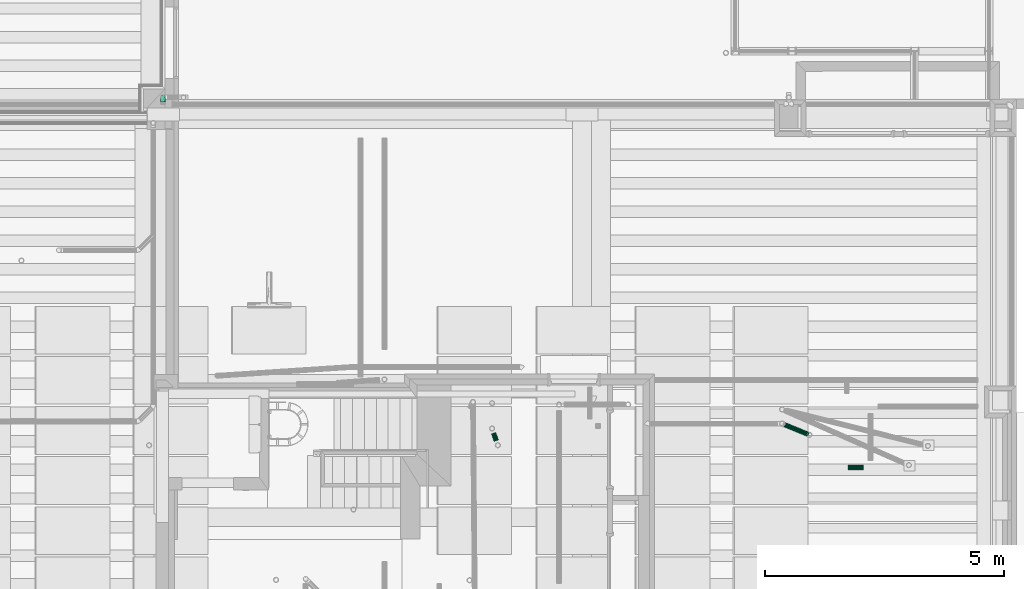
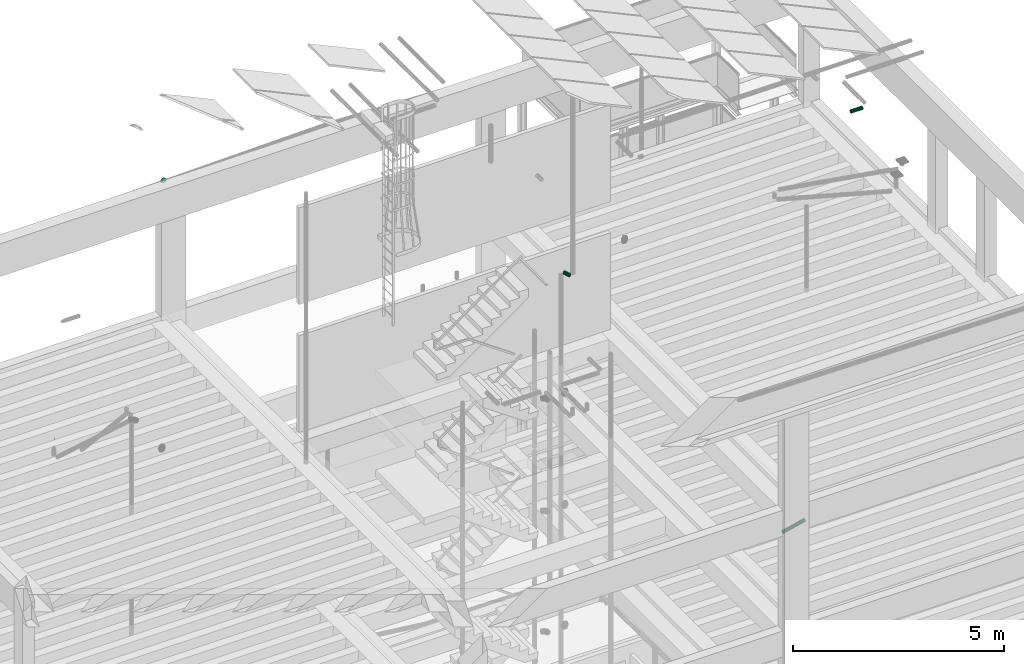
# One storey, part 92 of 106: 3 flow segments, 1 flow fitting.
"""IFC2X3 building model written with IfcOpenShell, lengths in metres."""

import ifcopenshell
import ifcopenshell.guid

model = None  # the IFC model being written
_history = None  # IfcOwnerHistory: only IFC2X3 demands one
_inside = {}  # id of a spatial element -> (the spatial element, [elements in it])
_under = {}  # id of a project, library or spatial element -> (it, [spatial elements below it])
_declared = {}  # id of a project -> (the project, [libraries it declares])
_typed = {}  # id of a type object -> (the type object, [elements of that type])
_made_of = {}  # id of a material, layer set ... -> (it, [elements and type objects made of it])


def new_model(schema):
    """Start an empty IFC model of exactly this schema.

    Asked for "IFC4X3", IfcOpenShell would pick the latest addendum, in which some entities
    have other attributes; the version numbers below select the first issue.
    IFC2X3 requires an IfcOwnerHistory on every rooted entity: one is made here for all.
    """
    global model, _history
    if schema == "IFC4X3":
        model = ifcopenshell.file(schema_version=(4, 3, 0, 0))
    else:
        model = ifcopenshell.file(schema=schema)
    _inside.clear()
    _under.clear()
    _declared.clear()
    _typed.clear()
    _made_of.clear()
    _history = None
    if model.schema == "IFC2X3":
        org = make("IfcOrganization", Name="unknown")
        user = make(
            "IfcPersonAndOrganization",
            ThePerson=make("IfcPerson", FamilyName="unknown"),
            TheOrganization=org,
        )
        app = make(
            "IfcApplication",
            ApplicationDeveloper=org,
            Version="unknown",
            ApplicationFullName="unknown",
            ApplicationIdentifier="unknown",
        )
        _history = make(
            "IfcOwnerHistory",
            OwningUser=user,
            OwningApplication=app,
            ChangeAction="ADDED",
            CreationDate=0,
        )
    return model


def make(cls, **values):
    """One entity of the class cls with the attributes given. An attribute that is None is left unset."""
    return model.create_entity(
        cls, **{name: value for name, value in values.items() if value is not None}
    )


def entity(cls, *values):
    """Any entity or typed value of the class cls, its attributes in the order of the schema. None: left unset."""
    e = model.create_entity(cls)
    for i, value in enumerate(values):
        if value is not None:
            e[i] = value
    return e


def rooted(cls, **values):
    """An entity with a GlobalId (a new one), such as an element, a storey or a relation."""
    return make(cls, GlobalId=ifcopenshell.guid.new(), OwnerHistory=_history, **values)


def si_unit(unit_type, name, prefix=None):
    """IfcSIUnit, for example si_unit("LENGTHUNIT", "METRE", prefix="MILLI")."""
    return make("IfcSIUnit", UnitType=unit_type, Prefix=prefix, Name=name)


def converted_unit(unit_type, name, factor, base, dimensions=None, offset=None):
    """IfcConversionBasedUnit, such as the inch: factor (a typed value) times the base unit."""
    return make(
        "IfcConversionBasedUnit"
        if offset is None
        else "IfcConversionBasedUnitWithOffset",
        ConversionOffset=offset,
        Dimensions=None
        if dimensions is None
        else entity("IfcDimensionalExponents", *dimensions),
        UnitType=unit_type,
        Name=name,
        ConversionFactor=make(
            "IfcMeasureWithUnit", ValueComponent=factor, UnitComponent=base
        ),
    )


def derived_unit(unit_type, elements):
    """IfcDerivedUnit: a product of units, each with its exponent."""
    return make(
        "IfcDerivedUnit",
        Elements=[
            make("IfcDerivedUnitElement", Unit=unit, Exponent=power)
            for unit, power in elements
        ],
        UnitType=unit_type,
    )


def money_unit(currency):
    """IfcMonetaryUnit."""
    return make("IfcMonetaryUnit", Currency=currency)


def assignment(units):
    """IfcUnitAssignment: the units of a project."""
    return None if units is None else make("IfcUnitAssignment", Units=units)


def point(xyz):
    """IfcCartesianPoint."""
    return None if xyz is None else make("IfcCartesianPoint", Coordinates=xyz)


def direction(xyz):
    """IfcDirection."""
    return None if xyz is None else make("IfcDirection", DirectionRatios=xyz)


def frame(location, z_axis=None, x_axis=None):
    """IfcAxis2Placement3D, a coordinate frame: its origin and axes. An axis left out is left unset."""
    return make(
        "IfcAxis2Placement3D",
        Location=point(location),
        Axis=direction(z_axis),
        RefDirection=direction(x_axis),
    )


def origin_with_axes():
    """The frame at (0, 0, 0) with the z axis (0, 0, 1) and the x axis (1, 0, 0) written out."""
    return frame((0.0, 0.0, 0.0), z_axis=(0.0, 0.0, 1.0), x_axis=(1.0, 0.0, 0.0))


def place(relative_to, where):
    """IfcLocalPlacement: puts the frame where relative to a parent placement (None: the world)."""
    return make(
        "IfcLocalPlacement", PlacementRelTo=relative_to, RelativePlacement=where
    )


def context(
    kind, dimensions, precision=None, world=None, true_north=None, identifier=None
):
    """IfcGeometricRepresentationContext, for example the 3D "Model" context."""
    return make(
        "IfcGeometricRepresentationContext",
        ContextIdentifier=identifier,
        ContextType=kind,
        CoordinateSpaceDimension=dimensions,
        Precision=precision,
        WorldCoordinateSystem=world,
        TrueNorth=true_north,
    )


def subcontext(parent, identifier, kind, view, scale=None):
    """IfcGeometricRepresentationSubContext, for example "Body" below "Model"."""
    return make(
        "IfcGeometricRepresentationSubContext",
        ContextIdentifier=identifier,
        ContextType=kind,
        ParentContext=parent,
        TargetScale=scale,
        TargetView=view,
    )


def project(units=None, contexts=None):
    """IfcProject with its units and contexts."""
    return rooted(
        "IfcProject",
        Name="project",
        RepresentationContexts=contexts,
        UnitsInContext=assignment(units),
    )


def spatial(cls, under=None, at=None, **own):
    """A site, building, storey or space (cls), placed at a placement, below another one or the project."""
    s = rooted(cls, ObjectPlacement=at, **own)
    if under is not None:
        _under.setdefault(under.id(), (under, []))[1].append(s)
    return s


def faces_of(points, faces, orient=None, outer=None):
    """IfcFace entities. A face is a list of loops; a loop is a list of indices into points, from 0.

    orient and outer hold one flag for each loop. By default every Orientation is true, the
    first loop of a face is its IfcFaceOuterBound and the others are IfcFaceBound.
    """
    made = []
    for i, loops in enumerate(faces):
        bounds = []
        for j, loop in enumerate(loops):
            is_outer = j == 0 if outer is None else outer[i][j]
            bounds.append(
                make(
                    "IfcFaceOuterBound" if is_outer else "IfcFaceBound",
                    Bound=make("IfcPolyLoop", Polygon=[points[k] for k in loop]),
                    Orientation=True if orient is None else orient[i][j],
                )
            )
        made.append(make("IfcFace", Bounds=bounds))
    return made


def open_shell(faces, orient=None, outer=None):
    """The faces of one IfcOpenShell. surface_model builds it on its shared points."""
    return ("IfcOpenShell", faces, orient, outer)


def faceted_brep(points, faces, orient=None, outer=None, voids=None):
    """IfcFacetedBrep: a solid bounded by flat faces; with voids (closed shells), ...WithVoids."""
    shared = [point(p) for p in points]
    hull = make("IfcClosedShell", CfsFaces=faces_of(shared, faces, orient, outer))
    if voids is None:
        return make("IfcFacetedBrep", Outer=hull)
    return make(
        "IfcFacetedBrepWithVoids",
        Outer=hull,
        Voids=[
            make(cls, CfsFaces=faces_of(shared, fs, o, b)) for cls, fs, o, b in voids
        ],
    )


def surface_model(cls, points, shells):
    """IfcFaceBasedSurfaceModel or IfcShellBasedSurfaceModel (cls): surfaces that need not close."""
    shared = [point(p) for p in points]
    made = [make(c, CfsFaces=faces_of(shared, fs, o, b)) for c, fs, o, b in shells]
    if cls == "IfcFaceBasedSurfaceModel":
        return make(cls, FbsmFaces=made)
    return make(cls, SbsmBoundary=made)


def shape(context_of_items, identifier, shape_type, items):
    """IfcShapeRepresentation: the items that make up one representation, for example the "Body"."""
    return make(
        "IfcShapeRepresentation",
        ContextOfItems=context_of_items,
        RepresentationIdentifier=identifier,
        RepresentationType=shape_type,
        Items=items,
    )


def material(Name=None, Category=None):
    """IfcMaterial."""
    return make("IfcMaterial", Name=Name, Category=Category)


def made_of(thing, what):
    """Note that an element or type object is made of a material, layer set ...; save() writes the relation."""
    if what is not None:
        _made_of.setdefault(what.id(), (what, []))[1].append(thing)
    return thing


def type_object(cls, material=None, **own):
    """A type object (cls), such as IfcWallType, which elements share."""
    return made_of(rooted(cls, **own), material)


def element(
    cls,
    number,
    at=None,
    inside=None,
    cuts=None,
    type_object=None,
    material=None,
    context=None,
    identifier="Body",
    shape_type=None,
    held_by="IfcProductDefinitionShape",
    body=None,
    shapes=None,
    **own,
):
    """One element of the class cls, such as IfcWall. Its Tag is "e" and its number.

    at: its placement. inside: the storey or other place that contains it. cuts: it is an
    opening in that element (IfcRelVoidsElement). A single representation is given by context,
    identifier, shape_type and body (its items); several are given by shapes. held_by: the class
    of the entity that holds the representations. save() writes the other relations.
    """
    e = rooted(cls, Tag="e%d" % number, ObjectPlacement=at, **own)
    if body is not None:
        shapes = [shape(context, identifier, shape_type, body)]
    if shapes is not None:
        e.Representation = make(held_by, Representations=shapes)
    if inside is not None:
        _inside.setdefault(inside.id(), (inside, []))[1].append(e)
    if cuts is not None:
        rooted(
            "IfcRelVoidsElement", RelatingBuildingElement=cuts, RelatedOpeningElement=e
        )
    if type_object is not None:
        _typed.setdefault(type_object.id(), (type_object, []))[1].append(e)
    return made_of(e, material)


def aggregate(whole, parts):
    """IfcRelAggregates: a whole, such as a stair, and the parts it consists of."""
    return rooted("IfcRelAggregates", RelatingObject=whole, RelatedObjects=parts)


def save(model, path):
    """Write the relations noted so far, then the file.

    IfcRelAggregates (storeys below a building ...), IfcRelContainedInSpatialStructure (elements
    in a storey), IfcRelDefinesByType, IfcRelAssociatesMaterial and IfcRelDeclares: one each for
    every whole, place, type object, material and project.
    """
    for whole, parts in _under.values():
        aggregate(whole, parts)
    for where, things in _inside.values():
        rooted(
            "IfcRelContainedInSpatialStructure",
            RelatedElements=things,
            RelatingStructure=where,
        )
    for kind, things in _typed.values():
        rooted("IfcRelDefinesByType", RelatedObjects=things, RelatingType=kind)
    for what, things in _made_of.values():
        rooted("IfcRelAssociatesMaterial", RelatedObjects=things, RelatingMaterial=what)
    for by, libraries in _declared.values():
        rooted("IfcRelDeclares", RelatingContext=by, RelatedDefinitions=libraries)
    model.write(path)


model = new_model("IFC2X3")

# Units and contexts
model_context = context("Model", 3, precision=1e-05, world=origin_with_axes(), true_north=direction((0.0, 1.0)))
body_context = subcontext(model_context, "Body", "Model", "MODEL_VIEW", scale=1.0)
ifc_project = project(units=[si_unit("LENGTHUNIT", "METRE"), si_unit("AREAUNIT", "SQUARE_METRE"), si_unit("VOLUMEUNIT", "CUBIC_METRE"), si_unit("ABSORBEDDOSEUNIT", "GRAY"), si_unit("AMOUNTOFSUBSTANCEUNIT", "MOLE"), si_unit("DOSEEQUIVALENTUNIT", "SIEVERT"), si_unit("ELECTRICCAPACITANCEUNIT", "FARAD"), si_unit("ELECTRICCHARGEUNIT", "COULOMB"), si_unit("ELECTRICCONDUCTANCEUNIT", "SIEMENS"), si_unit("ELECTRICCURRENTUNIT", "AMPERE"), si_unit("ELECTRICRESISTANCEUNIT", "OHM"), si_unit("ELECTRICVOLTAGEUNIT", "VOLT"), si_unit("ENERGYUNIT", "JOULE"), si_unit("FORCEUNIT", "NEWTON"), si_unit("FREQUENCYUNIT", "HERTZ"), si_unit("ILLUMINANCEUNIT", "LUX"), si_unit("INDUCTANCEUNIT", "HENRY"), si_unit("LUMINOUSFLUXUNIT", "LUMEN"), si_unit("LUMINOUSINTENSITYUNIT", "CANDELA"), si_unit("MAGNETICFLUXDENSITYUNIT", "TESLA"), si_unit("MAGNETICFLUXUNIT", "WEBER"), si_unit("MASSUNIT", "GRAM"), converted_unit("PLANEANGLEUNIT", "degree", entity("IfcReal", 0.0174532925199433), si_unit("PLANEANGLEUNIT", "RADIAN"), dimensions=[0, 0, 0, 0, 0, 0, 0]), si_unit("POWERUNIT", "WATT"), si_unit("PRESSUREUNIT", "PASCAL"), si_unit("RADIOACTIVITYUNIT", "BECQUEREL"), si_unit("SOLIDANGLEUNIT", "STERADIAN"), si_unit("THERMODYNAMICTEMPERATUREUNIT", "KELVIN"), si_unit("TIMEUNIT", "SECOND"), derived_unit("ACCELERATIONUNIT", [(si_unit("LENGTHUNIT", "METRE"), 1), (si_unit("TIMEUNIT", "SECOND"), -2)]), derived_unit("ANGULARVELOCITYUNIT", [(converted_unit("PLANEANGLEUNIT", "degree", entity("IfcReal", 0.0174532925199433), si_unit("PLANEANGLEUNIT", "RADIAN"), dimensions=[0, 0, 0, 0, 0, 0, 0]), 1), (si_unit("TIMEUNIT", "SECOND"), -1)]), derived_unit("CURVATUREUNIT", [(converted_unit("PLANEANGLEUNIT", "degree", entity("IfcReal", 0.0174532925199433), si_unit("PLANEANGLEUNIT", "RADIAN"), dimensions=[0, 0, 0, 0, 0, 0, 0]), 1), (si_unit("LENGTHUNIT", "METRE"), -1)]), derived_unit("DYNAMICVISCOSITYUNIT", [(si_unit("PRESSUREUNIT", "PASCAL"), 1), (si_unit("TIMEUNIT", "SECOND"), 1)]), derived_unit("HEATFLUXDENSITYUNIT", [(si_unit("POWERUNIT", "WATT"), 1), (si_unit("LENGTHUNIT", "METRE"), -2)]), derived_unit("HEATINGVALUEUNIT", [(si_unit("ENERGYUNIT", "JOULE"), 1), (si_unit("MASSUNIT", "GRAM"), -1)]), derived_unit("INTEGERCOUNTRATEUNIT", [(si_unit("TIMEUNIT", "SECOND"), -1)]), derived_unit("IONCONCENTRATIONUNIT", [(si_unit("MASSUNIT", "GRAM"), 1), (si_unit("VOLUMEUNIT", "CUBIC_METRE"), -1)]), derived_unit("ISOTHERMALMOISTURECAPACITYUNIT", [(si_unit("VOLUMEUNIT", "CUBIC_METRE"), 1), (si_unit("MASSUNIT", "GRAM"), -1)]), derived_unit("KINEMATICVISCOSITYUNIT", [(si_unit("AREAUNIT", "SQUARE_METRE"), 1), (si_unit("TIMEUNIT", "SECOND"), -1)]), derived_unit("LINEARFORCEUNIT", [(si_unit("FORCEUNIT", "NEWTON"), 1), (si_unit("LENGTHUNIT", "METRE"), -1)]), derived_unit("LINEARMOMENTUNIT", [(si_unit("FORCEUNIT", "NEWTON"), 1), (si_unit("LENGTHUNIT", "METRE"), -1)]), derived_unit("LINEARSTIFFNESSUNIT", [(si_unit("FORCEUNIT", "NEWTON"), 1), (si_unit("LENGTHUNIT", "METRE"), -1)]), derived_unit("LINEARVELOCITYUNIT", [(si_unit("LENGTHUNIT", "METRE"), 1), (si_unit("TIMEUNIT", "SECOND"), -1)]), derived_unit("LUMINOUSINTENSITYDISTRIBUTIONUNIT", [(si_unit("LUMINOUSINTENSITYUNIT", "CANDELA"), 1), (si_unit("LUMINOUSFLUXUNIT", "LUMEN"), -1)]), derived_unit("MASSDENSITYUNIT", [(si_unit("MASSUNIT", "GRAM"), 1), (si_unit("VOLUMEUNIT", "CUBIC_METRE"), -1)]), derived_unit("MASSFLOWRATEUNIT", [(si_unit("MASSUNIT", "GRAM"), 1), (si_unit("TIMEUNIT", "SECOND"), -1)]), derived_unit("MASSPERLENGTHUNIT", [(si_unit("MASSUNIT", "GRAM"), 1), (si_unit("LENGTHUNIT", "METRE"), -1)]), derived_unit("MODULUSOFELASTICITYUNIT", [(si_unit("FORCEUNIT", "NEWTON"), 1), (si_unit("AREAUNIT", "SQUARE_METRE"), -1)]), derived_unit("MODULUSOFLINEARSUBGRADEREACTIONUNIT", [(si_unit("FORCEUNIT", "NEWTON"), 1), (si_unit("LENGTHUNIT", "METRE"), -2)]), derived_unit("MODULUSOFROTATIONALSUBGRADEREACTIONUNIT", [(si_unit("FORCEUNIT", "NEWTON"), 1), (si_unit("LENGTHUNIT", "METRE"), 1)]), derived_unit("MODULUSOFSUBGRADEREACTIONUNIT", [(si_unit("FORCEUNIT", "NEWTON"), 1), (si_unit("VOLUMEUNIT", "CUBIC_METRE"), -1)]), derived_unit("MOISTUREDIFFUSIVITYUNIT", [(si_unit("VOLUMEUNIT", "CUBIC_METRE"), 1), (si_unit("TIMEUNIT", "SECOND"), -1)]), derived_unit("MOLECULARWEIGHTUNIT", [(si_unit("MASSUNIT", "GRAM"), 1), (si_unit("AMOUNTOFSUBSTANCEUNIT", "MOLE"), -1)]), derived_unit("PLANARFORCEUNIT", [(si_unit("FORCEUNIT", "NEWTON"), 1), (si_unit("LENGTHUNIT", "METRE"), -2)]), derived_unit("ROTATIONALFREQUENCYUNIT", [(si_unit("TIMEUNIT", "SECOND"), -1)]), derived_unit("ROTATIONALMASSUNIT", [(si_unit("MASSUNIT", "GRAM"), 1), (si_unit("LENGTHUNIT", "METRE"), 2)]), derived_unit("ROTATIONALSTIFFNESSUNIT", [(si_unit("FORCEUNIT", "NEWTON"), 1), (si_unit("LENGTHUNIT", "METRE"), 1), (converted_unit("PLANEANGLEUNIT", "degree", entity("IfcReal", 0.0174532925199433), si_unit("PLANEANGLEUNIT", "RADIAN"), dimensions=[0, 0, 0, 0, 0, 0, 0]), -1)]), derived_unit("SECTIONAREAINTEGRALUNIT", [(si_unit("LENGTHUNIT", "METRE"), 5)]), derived_unit("SECTIONMODULUSUNIT", [(si_unit("LENGTHUNIT", "METRE"), 3)]), derived_unit("SHEARMODULUSUNIT", [(si_unit("FORCEUNIT", "NEWTON"), 1), (si_unit("AREAUNIT", "SQUARE_METRE"), -1)]), derived_unit("SOUNDPOWERUNIT", [(si_unit("ENERGYUNIT", "JOULE"), 1), (si_unit("TIMEUNIT", "SECOND"), -1)]), derived_unit("SPECIFICHEATCAPACITYUNIT", [(si_unit("FORCEUNIT", "NEWTON"), 1), (si_unit("MASSUNIT", "GRAM"), -1), (si_unit("THERMODYNAMICTEMPERATUREUNIT", "KELVIN"), -1)]), derived_unit("TEMPERATUREGRADIENTUNIT", [(si_unit("THERMODYNAMICTEMPERATUREUNIT", "KELVIN"), 1), (si_unit("LENGTHUNIT", "METRE"), -1)]), derived_unit("THERMALADMITTANCEUNIT", [(si_unit("POWERUNIT", "WATT"), 1), (si_unit("AREAUNIT", "SQUARE_METRE"), -1), (si_unit("THERMODYNAMICTEMPERATUREUNIT", "KELVIN"), -1)]), derived_unit("THERMALCONDUCTANCEUNIT", [(si_unit("POWERUNIT", "WATT"), 1), (si_unit("LENGTHUNIT", "METRE"), -1), (si_unit("THERMODYNAMICTEMPERATUREUNIT", "KELVIN"), -1)]), derived_unit("THERMALEXPANSIONCOEFFICIENTUNIT", [(si_unit("THERMODYNAMICTEMPERATUREUNIT", "KELVIN"), -1)]), derived_unit("THERMALRESISTANCEUNIT", [(si_unit("AREAUNIT", "SQUARE_METRE"), 1), (si_unit("POWERUNIT", "WATT"), -1)]), derived_unit("THERMALTRANSMITTANCEUNIT", [(si_unit("POWERUNIT", "WATT"), 1), (si_unit("AREAUNIT", "SQUARE_METRE"), -1), (si_unit("THERMODYNAMICTEMPERATUREUNIT", "KELVIN"), -1)]), derived_unit("TORQUEUNIT", [(si_unit("FORCEUNIT", "NEWTON"), 1), (si_unit("LENGTHUNIT", "METRE"), 1)]), derived_unit("VAPORPERMEABILITYUNIT", [(si_unit("MASSUNIT", "GRAM"), 1), (si_unit("TIMEUNIT", "SECOND"), -1)]), derived_unit("VOLUMETRICFLOWRATEUNIT", [(si_unit("VOLUMEUNIT", "CUBIC_METRE"), 1), (si_unit("TIMEUNIT", "SECOND"), -1)]), derived_unit("WARPINGCONSTANTUNIT", [(si_unit("LENGTHUNIT", "METRE"), 6)]), derived_unit("WARPINGMOMENTUNIT", [(si_unit("FORCEUNIT", "NEWTON"), 1), (si_unit("LENGTHUNIT", "METRE"), 2)]), money_unit("GBP")], contexts=[model_context])

# Site, building, storey
site_placement = place(None, origin_with_axes())
site = spatial("IfcSite", under=ifc_project, at=site_placement, Name="Site", CompositionType="ELEMENT")
building_placement = place(site_placement, origin_with_axes())
building = spatial("IfcBuilding", under=site, at=building_placement, Name="Building01", CompositionType="ELEMENT")
storey_placement = place(building_placement, origin_with_axes())
storey = spatial("IfcBuildingStorey", under=building, at=storey_placement, Name="GF", CompositionType="ELEMENT", Elevation=0.0)

# Flow segments
ifc_material_1 = material(Name="M_BSUK_Ventilation")
duct_segment_type = type_object("IfcDuctSegmentType", Name="M-RoundDuct", PredefinedType="RIGIDSEGMENT")
flow_segment_1_placement = place(storey_placement, frame((23.78, 7.199939, 17.28), z_axis=(0.0, 0.0, 1.0), x_axis=(-1.0, 0.0, 0.0)))
element("IfcFlowSegment", 1, at=flow_segment_1_placement, inside=storey, type_object=duct_segment_type, material=ifc_material_1, Name="M-RoundDuct", ObjectType="M-RoundDuct", context=body_context, shape_type="Brep", body=[
    faceted_brep([(0.32063, 0.0, -0.05), (0.0, 0.0, -0.05), (0.0, 0.019134, -0.046194), (0.32063, 0.019134, -0.046194), (0.0, 0.035355, -0.035355), (0.32063, 0.035355, -0.035355), (0.0, 0.046194, -0.019134), (0.32063, 0.046194, -0.019134), (0.0, 0.05, 0.0), (0.32063, 0.05, 0.0), (0.0, 0.046194, 0.019134), (0.32063, 0.046194, 0.019134), (0.0, 0.035355, 0.035355), (0.32063, 0.035355, 0.035355), (0.0, 0.019134, 0.046194), (0.32063, 0.019134, 0.046194), (0.0, 0.0, 0.05), (0.32063, 0.0, 0.05), (0.0, -0.019134, 0.046194), (0.32063, -0.019134, 0.046194), (0.0, -0.035355, 0.035355), (0.32063, -0.035355, 0.035355), (0.0, -0.046194, 0.019134), (0.32063, -0.046194, 0.019134), (0.0, -0.05, 0.0), (0.32063, -0.05, 0.0), (0.0, -0.046194, -0.019134), (0.32063, -0.046194, -0.019134), (0.0, -0.035355, -0.035355), (0.32063, -0.035355, -0.035355), (0.0, -0.019134, -0.046194), (0.32063, -0.019134, -0.046194)], [[[0, 1, 2, 3]], [[3, 2, 4, 5]], [[5, 4, 6, 7]], [[7, 6, 8, 9]], [[9, 8, 10, 11]], [[11, 10, 12, 13]], [[13, 12, 14, 15]], [[15, 14, 16, 17]], [[17, 16, 18, 19]], [[19, 18, 20, 21]], [[21, 20, 22, 23]], [[23, 22, 24, 25]], [[25, 24, 26, 27]], [[27, 26, 28, 29]], [[29, 28, 30, 31]], [[31, 30, 1, 0]]]),
])
ifc_material_2 = material(Name="M_BSUK_ColdWater")
pipe_segment_type = type_object("IfcPipeSegmentType", Name="M-BmpStraightpipe-DefaultPipe", PredefinedType="RIGIDSEGMENT")
flow_segment_2_placement = place(storey_placement, frame((22.112987, 8.102029, 5.038065), z_axis=(0.37911494, 0.92534959, 0.0), x_axis=(0.80137625, -0.32832317, 0.5)))
element("IfcFlowSegment", 2, at=flow_segment_2_placement, inside=storey, type_object=pipe_segment_type, material=ifc_material_2, Name="M-BmpStraightpipe-DefaultPipe", ObjectType="M-BmpStraightpipe-DefaultPipe", context=body_context, shape_type="Brep", body=[
    faceted_brep([(0.619743, 0.0, -0.05), (0.0, 0.0, -0.05), (0.0, 0.019134, -0.046194), (0.619743, 0.019134, -0.046194), (0.0, 0.035355, -0.035355), (0.619743, 0.035355, -0.035355), (0.0, 0.046194, -0.019134), (0.619743, 0.046194, -0.019134), (0.0, 0.05, 0.0), (0.619743, 0.05, 0.0), (0.0, 0.046194, 0.019134), (0.619743, 0.046194, 0.019134), (0.0, 0.035355, 0.035355), (0.619743, 0.035355, 0.035355), (0.0, 0.019134, 0.046194), (0.619743, 0.019134, 0.046194), (0.0, 0.0, 0.05), (0.619743, 0.0, 0.05), (0.0, -0.019134, 0.046194), (0.619743, -0.019134, 0.046194), (0.0, -0.035355, 0.035355), (0.619743, -0.035355, 0.035355), (0.0, -0.046194, 0.019134), (0.619743, -0.046194, 0.019134), (0.0, -0.05, 0.0), (0.619743, -0.05, 0.0), (0.0, -0.046194, -0.019134), (0.619743, -0.046194, -0.019134), (0.0, -0.035355, -0.035355), (0.619743, -0.035355, -0.035355), (0.0, -0.019134, -0.046194), (0.619743, -0.019134, -0.046194)], [[[0, 1, 2, 3]], [[3, 2, 4, 5]], [[5, 4, 6, 7]], [[7, 6, 8, 9]], [[9, 8, 10, 11]], [[11, 10, 12, 13]], [[13, 12, 14, 15]], [[15, 14, 16, 17]], [[17, 16, 18, 19]], [[19, 18, 20, 21]], [[21, 20, 22, 23]], [[23, 22, 24, 25]], [[25, 24, 26, 27]], [[27, 26, 28, 29]], [[29, 28, 30, 31]], [[31, 30, 1, 0]]]),
])
flow_segment_3_placement = place(storey_placement, frame((16.09237, 7.758319, 14.787509), z_axis=(-0.94641689, -0.32294749, 0.0), x_axis=(-0.32292226, 0.94634296, -0.01249902)))
element("IfcFlowSegment", 3, at=flow_segment_3_placement, inside=storey, type_object=pipe_segment_type, material=ifc_material_2, Name="M-BmpStraightpipe-DefaultPipe", ObjectType="M-BmpStraightpipe-DefaultPipe", context=body_context, shape_type="Brep", body=[
    faceted_brep([(0.172177, 0.0, -0.05), (0.0, 0.0, -0.05), (0.0, 0.019134, -0.046194), (0.172177, 0.019134, -0.046194), (0.0, 0.035355, -0.035355), (0.172177, 0.035355, -0.035355), (0.0, 0.046194, -0.019134), (0.172177, 0.046194, -0.019134), (0.0, 0.05, 0.0), (0.172177, 0.05, 0.0), (0.0, 0.046194, 0.019134), (0.172177, 0.046194, 0.019134), (0.0, 0.035355, 0.035355), (0.172177, 0.035355, 0.035355), (0.0, 0.019134, 0.046194), (0.172177, 0.019134, 0.046194), (0.0, 0.0, 0.05), (0.172177, 0.0, 0.05), (0.0, -0.019134, 0.046194), (0.172177, -0.019134, 0.046194), (0.0, -0.035355, 0.035355), (0.172177, -0.035355, 0.035355), (0.0, -0.046194, 0.019134), (0.172177, -0.046194, 0.019134), (0.0, -0.05, 0.0), (0.172177, -0.05, 0.0), (0.0, -0.046194, -0.019134), (0.172177, -0.046194, -0.019134), (0.0, -0.035355, -0.035355), (0.172177, -0.035355, -0.035355), (0.0, -0.019134, -0.046194), (0.172177, -0.019134, -0.046194)], [[[0, 1, 2, 3]], [[3, 2, 4, 5]], [[5, 4, 6, 7]], [[7, 6, 8, 9]], [[9, 8, 10, 11]], [[11, 10, 12, 13]], [[13, 12, 14, 15]], [[15, 14, 16, 17]], [[17, 16, 18, 19]], [[19, 18, 20, 21]], [[21, 20, 22, 23]], [[23, 22, 24, 25]], [[25, 24, 26, 27]], [[27, 26, 28, 29]], [[29, 28, 30, 31]], [[31, 30, 1, 0]]]),
])

# Flow fitting
pipe_fitting_type = type_object("IfcPipeFittingType", Name="M-BmpElbow-DefaultElbow", PredefinedType="BEND")
flow_fitting_placement = place(storey_placement, frame((9.112744, 14.95, 15.576024), z_axis=(0.0, 1.0, 0.0), x_axis=(0.0, 0.0, -1.0)))
element("IfcFlowFitting", 4, at=flow_fitting_placement, inside=storey, type_object=pipe_fitting_type, material=ifc_material_2, Name="M-BmpElbow-DefaultElbow", ObjectType="M-BmpElbow-DefaultElbow", context=body_context, shape_type="SurfaceModel", body=[
    surface_model("IfcShellBasedSurfaceModel", [(-0.008009, -0.01349, -0.048768), (0.0, -0.01349, -0.048146), (0.0, 0.0, -0.05), (-0.007723, 0.0, -0.0506), (-0.015826, -0.01349, -0.05062), (-0.015261, 0.0, -0.052386), (-0.023264, -0.01349, -0.053657), (-0.022432, 0.0, -0.055314), (-0.030143, -0.01349, -0.057807), (-0.029065, 0.0, -0.059315), (-0.036298, -0.01349, -0.062969), (-0.035, 0.0, -0.064293), (-0.041582, -0.01349, -0.06902), (-0.040095, 0.0, -0.070127), (-0.045868, -0.01349, -0.075814), (-0.044228, 0.0, -0.076679), (-0.049054, -0.01349, -0.083189), (-0.0473, 0.0, -0.08379), (-0.051061, -0.01349, -0.090968), (-0.049236, 0.0, -0.091291), (-0.051844, -0.01349, -0.098963), (-0.04999, 0.0, -0.099), (-0.008847, -0.025979, -0.043408), (0.0, -0.025979, -0.042721), (-0.017482, -0.025979, -0.045454), (-0.025697, -0.025979, -0.048809), (-0.033296, -0.025979, -0.053392), (-0.040095, -0.025979, -0.059095), (-0.045932, -0.025979, -0.065779), (-0.050667, -0.025979, -0.073284), (-0.054185, -0.025979, -0.081431), (-0.056403, -0.025979, -0.090023), (-0.057268, -0.025979, -0.098855), (-0.010175, -0.036542, -0.034918), (0.0, -0.036542, -0.034128), (-0.020105, -0.036542, -0.037271), (-0.029553, -0.036542, -0.041129), (-0.038291, -0.036542, -0.0464), (-0.046111, -0.036542, -0.052958), (-0.052823, -0.036542, -0.060645), (-0.058268, -0.036542, -0.069276), (-0.062315, -0.036542, -0.078645), (-0.064865, -0.036542, -0.088526), (-0.065859, -0.036542, -0.098683), (-0.011893, -0.044394, -0.023927), (0.0, -0.044394, -0.023003), (-0.0235, -0.044394, -0.026677), (-0.034544, -0.044394, -0.031187), (-0.044758, -0.044394, -0.037348), (-0.053898, -0.044394, -0.045013), (-0.061744, -0.044394, -0.053998), (-0.068109, -0.044394, -0.064087), (-0.072838, -0.044394, -0.075038), (-0.07582, -0.044394, -0.086588), (-0.076981, -0.044394, -0.09846), (-0.013875, -0.048954, -0.011251), (0.0, -0.048954, -0.010173), (-0.027416, -0.048954, -0.014459), (-0.0403, -0.048954, -0.01972), (-0.052216, -0.048954, -0.026908), (-0.062879, -0.048954, -0.035851), (-0.072033, -0.048954, -0.046333), (-0.079458, -0.048954, -0.058103), (-0.084976, -0.048954, -0.070879), (-0.088454, -0.048954, -0.084353), (-0.089809, -0.048954, -0.098204), (-0.015973, -0.049883, 0.002171), (0.0, -0.049883, 0.003412), (-0.031562, -0.049883, -0.001522), (-0.046394, -0.049883, -0.007579), (-0.060113, -0.049883, -0.015854), (-0.072389, -0.049883, -0.026149), (-0.082927, -0.049883, -0.038216), (-0.091475, -0.049883, -0.051767), (-0.097827, -0.049883, -0.066475), (-0.101831, -0.049883, -0.081987), (-0.103391, -0.049883, -0.097932), (-0.018032, -0.047113, 0.015343), (0.0, -0.047113, 0.016744), (-0.035632, -0.047113, 0.011174), (-0.052376, -0.047113, 0.004336), (-0.067863, -0.047113, -0.005006), (-0.081721, -0.047113, -0.016628), (-0.093618, -0.047113, -0.030251), (-0.103268, -0.047113, -0.045548), (-0.110439, -0.047113, -0.062153), (-0.114959, -0.047113, -0.079665), (-0.116721, -0.047113, -0.097665), (-0.0199, -0.040848, 0.027288), (0.0, -0.040848, 0.028834), (-0.039322, -0.040848, 0.022687), (-0.0578, -0.040848, 0.015141), (-0.074891, -0.040848, 0.004831), (-0.090184, -0.040848, -0.007994), (-0.103313, -0.040848, -0.023028), (-0.113962, -0.040848, -0.039909), (-0.121876, -0.040848, -0.058233), (-0.126865, -0.040848, -0.077559), (-0.128808, -0.040848, -0.097424), (-0.021437, -0.031554, 0.03712), (0.0, -0.031554, 0.038786), (-0.042359, -0.031554, 0.032163), (-0.062264, -0.031554, 0.024035), (-0.080675, -0.031554, 0.012929), (-0.09715, -0.031554, -0.000887), (-0.111293, -0.031554, -0.017083), (-0.122765, -0.031554, -0.035268), (-0.13129, -0.031554, -0.055007), (-0.136664, -0.031554, -0.075826), (-0.138758, -0.031554, -0.097225), (-0.022529, -0.01992, 0.04411), (0.0, -0.01992, 0.045861), (-0.044518, -0.01992, 0.038901), (-0.065438, -0.01992, 0.030358), (-0.084788, -0.01992, 0.018686), (-0.102103, -0.01992, 0.004165), (-0.116966, -0.01992, -0.012856), (-0.129023, -0.01992, -0.031968), (-0.137983, -0.01992, -0.052713), (-0.143631, -0.01992, -0.074593), (-0.145831, -0.01992, -0.097083), (-0.023097, -0.006808, 0.04774), (0.0, -0.006808, 0.049534), (-0.045639, -0.006808, 0.042399), (-0.067087, -0.006808, 0.033641), (-0.086924, -0.006808, 0.021675), (-0.104674, -0.006808, 0.006789), (-0.119912, -0.006808, -0.010661), (-0.132273, -0.006808, -0.030254), (-0.141458, -0.006808, -0.051522), (-0.147248, -0.006808, -0.073953), (-0.149504, -0.006808, -0.09701), (-0.023097, 0.006808, 0.04774), (0.0, 0.006808, 0.049534), (-0.045639, 0.006808, 0.042399), (-0.067087, 0.006808, 0.033641), (-0.086924, 0.006808, 0.021675), (-0.104674, 0.006808, 0.006789), (-0.119912, 0.006808, -0.010661), (-0.132273, 0.006808, -0.030254), (-0.141458, 0.006808, -0.051522), (-0.147248, 0.006808, -0.073953), (-0.149504, 0.006808, -0.09701), (-0.022529, 0.01992, 0.04411), (0.0, 0.01992, 0.045861), (-0.044518, 0.01992, 0.038901), (-0.065438, 0.01992, 0.030358), (-0.084788, 0.01992, 0.018686), (-0.102103, 0.01992, 0.004165), (-0.116966, 0.01992, -0.012856), (-0.129023, 0.01992, -0.031968), (-0.137983, 0.01992, -0.052713), (-0.143631, 0.01992, -0.074593), (-0.145831, 0.01992, -0.097083), (-0.021437, 0.031554, 0.03712), (0.0, 0.031554, 0.038786), (-0.042359, 0.031554, 0.032163), (-0.062264, 0.031554, 0.024035), (-0.080675, 0.031554, 0.012929), (-0.09715, 0.031554, -0.000887), (-0.111293, 0.031554, -0.017083), (-0.122765, 0.031554, -0.035268), (-0.13129, 0.031554, -0.055007), (-0.136664, 0.031554, -0.075826), (-0.138758, 0.031554, -0.097225), (-0.0199, 0.040848, 0.027288), (0.0, 0.040848, 0.028834), (-0.039322, 0.040848, 0.022687), (-0.0578, 0.040848, 0.015141), (-0.074891, 0.040848, 0.004831), (-0.090184, 0.040848, -0.007994), (-0.103313, 0.040848, -0.023028), (-0.113962, 0.040848, -0.039909), (-0.121876, 0.040848, -0.058233), (-0.126865, 0.040848, -0.077559), (-0.128808, 0.040848, -0.097424), (-0.018032, 0.047113, 0.015343), (0.0, 0.047113, 0.016744), (-0.035632, 0.047113, 0.011174), (-0.052376, 0.047113, 0.004336), (-0.067863, 0.047113, -0.005006), (-0.081721, 0.047113, -0.016628), (-0.093618, 0.047113, -0.030251), (-0.103268, 0.047113, -0.045548), (-0.110439, 0.047113, -0.062153), (-0.114959, 0.047113, -0.079665), (-0.116721, 0.047113, -0.097665), (-0.015973, 0.049883, 0.002171), (0.0, 0.049883, 0.003412), (-0.031562, 0.049883, -0.001522), (-0.046394, 0.049883, -0.007579), (-0.060113, 0.049883, -0.015854), (-0.072389, 0.049883, -0.026149), (-0.082927, 0.049883, -0.038216), (-0.091475, 0.049883, -0.051767), (-0.097827, 0.049883, -0.066475), (-0.101831, 0.049883, -0.081987), (-0.103391, 0.049883, -0.097932), (-0.013875, 0.048954, -0.011251), (0.0, 0.048954, -0.010173), (-0.027416, 0.048954, -0.014459), (-0.0403, 0.048954, -0.01972), (-0.052216, 0.048954, -0.026908), (-0.062879, 0.048954, -0.035851), (-0.072033, 0.048954, -0.046333), (-0.079458, 0.048954, -0.058103), (-0.084976, 0.048954, -0.070879), (-0.088454, 0.048954, -0.084353), (-0.089809, 0.048954, -0.098204), (-0.011893, 0.044394, -0.023927), (0.0, 0.044394, -0.023003), (-0.0235, 0.044394, -0.026677), (-0.034544, 0.044394, -0.031187), (-0.044758, 0.044394, -0.037348), (-0.053898, 0.044394, -0.045013), (-0.061744, 0.044394, -0.053998), (-0.068109, 0.044394, -0.064087), (-0.072838, 0.044394, -0.075038), (-0.07582, 0.044394, -0.086588), (-0.076981, 0.044394, -0.09846), (-0.010175, 0.036542, -0.034918), (0.0, 0.036542, -0.034128), (-0.020105, 0.036542, -0.037271), (-0.029553, 0.036542, -0.041129), (-0.038291, 0.036542, -0.0464), (-0.046111, 0.036542, -0.052958), (-0.052823, 0.036542, -0.060645), (-0.058268, 0.036542, -0.069276), (-0.062315, 0.036542, -0.078645), (-0.064865, 0.036542, -0.088526), (-0.065859, 0.036542, -0.098683), (-0.008847, 0.025979, -0.043408), (0.0, 0.025979, -0.042721), (-0.017482, 0.025979, -0.045454), (-0.025697, 0.025979, -0.048809), (-0.033296, 0.025979, -0.053392), (-0.040095, 0.025979, -0.059095), (-0.045932, 0.025979, -0.065779), (-0.050667, 0.025979, -0.073284), (-0.054185, 0.025979, -0.081431), (-0.056403, 0.025979, -0.090023), (-0.057268, 0.025979, -0.098855), (-0.008009, 0.01349, -0.048768), (0.0, 0.01349, -0.048146), (-0.015826, 0.01349, -0.05062), (-0.023264, 0.01349, -0.053657), (-0.030143, 0.01349, -0.057807), (-0.036298, 0.01349, -0.062969), (-0.041582, 0.01349, -0.06902), (-0.045868, 0.01349, -0.075814), (-0.049054, 0.01349, -0.083189), (-0.051061, 0.01349, -0.090968), (-0.051844, 0.01349, -0.098963)], [open_shell([[[0, 1, 2, 3]], [[4, 0, 3, 5]], [[6, 4, 5, 7]], [[8, 6, 7, 9]], [[10, 8, 9, 11]], [[12, 10, 11, 13]], [[14, 12, 13, 15]], [[16, 14, 15, 17]], [[18, 16, 17, 19]], [[20, 18, 19, 21]], [[22, 23, 1, 0]], [[24, 22, 0, 4]], [[25, 24, 4, 6]], [[26, 25, 6, 8]], [[27, 26, 8, 10]], [[28, 27, 10, 12]], [[29, 28, 12, 14]], [[30, 29, 14, 16]], [[31, 30, 16, 18]], [[32, 31, 18, 20]], [[33, 34, 23, 22]], [[35, 33, 22, 24]], [[36, 35, 24, 25]], [[37, 36, 25, 26]], [[38, 37, 26, 27]], [[39, 38, 27, 28]], [[40, 39, 28, 29]], [[41, 40, 29, 30]], [[42, 41, 30, 31]], [[43, 42, 31, 32]], [[44, 45, 34, 33]], [[46, 44, 33, 35]], [[47, 46, 35, 36]], [[48, 47, 36, 37]], [[49, 48, 37, 38]], [[50, 49, 38, 39]], [[51, 50, 39, 40]], [[52, 51, 40, 41]], [[53, 52, 41, 42]], [[54, 53, 42, 43]], [[55, 56, 45, 44]], [[57, 55, 44, 46]], [[58, 57, 46, 47]], [[59, 58, 47, 48]], [[60, 59, 48, 49]], [[61, 60, 49, 50]], [[62, 61, 50, 51]], [[63, 62, 51, 52]], [[64, 63, 52, 53]], [[65, 64, 53, 54]], [[66, 67, 56, 55]], [[68, 66, 55, 57]], [[69, 68, 57, 58]], [[70, 69, 58, 59]], [[71, 70, 59, 60]], [[72, 71, 60, 61]], [[73, 72, 61, 62]], [[74, 73, 62, 63]], [[75, 74, 63, 64]], [[76, 75, 64, 65]], [[77, 78, 67, 66]], [[79, 77, 66, 68]], [[80, 79, 68, 69]], [[81, 80, 69, 70]], [[82, 81, 70, 71]], [[83, 82, 71, 72]], [[84, 83, 72, 73]], [[85, 84, 73, 74]], [[86, 85, 74, 75]], [[87, 86, 75, 76]], [[88, 89, 78, 77]], [[90, 88, 77, 79]], [[91, 90, 79, 80]], [[92, 91, 80, 81]], [[93, 92, 81, 82]], [[94, 93, 82, 83]], [[95, 94, 83, 84]], [[96, 95, 84, 85]], [[97, 96, 85, 86]], [[98, 97, 86, 87]], [[99, 100, 89, 88]], [[101, 99, 88, 90]], [[102, 101, 90, 91]], [[103, 102, 91, 92]], [[104, 103, 92, 93]], [[105, 104, 93, 94]], [[106, 105, 94, 95]], [[107, 106, 95, 96]], [[108, 107, 96, 97]], [[109, 108, 97, 98]], [[110, 111, 100, 99]], [[112, 110, 99, 101]], [[113, 112, 101, 102]], [[114, 113, 102, 103]], [[115, 114, 103, 104]], [[116, 115, 104, 105]], [[117, 116, 105, 106]], [[118, 117, 106, 107]], [[119, 118, 107, 108]], [[120, 119, 108, 109]], [[121, 122, 111, 110]], [[123, 121, 110, 112]], [[124, 123, 112, 113]], [[125, 124, 113, 114]], [[126, 125, 114, 115]], [[127, 126, 115, 116]], [[128, 127, 116, 117]], [[129, 128, 117, 118]], [[130, 129, 118, 119]], [[131, 130, 119, 120]], [[132, 133, 122, 121]], [[134, 132, 121, 123]], [[135, 134, 123, 124]], [[136, 135, 124, 125]], [[137, 136, 125, 126]], [[138, 137, 126, 127]], [[139, 138, 127, 128]], [[140, 139, 128, 129]], [[141, 140, 129, 130]], [[142, 141, 130, 131]], [[143, 144, 133, 132]], [[145, 143, 132, 134]], [[146, 145, 134, 135]], [[147, 146, 135, 136]], [[148, 147, 136, 137]], [[149, 148, 137, 138]], [[150, 149, 138, 139]], [[151, 150, 139, 140]], [[152, 151, 140, 141]], [[153, 152, 141, 142]], [[154, 155, 144, 143]], [[156, 154, 143, 145]], [[157, 156, 145, 146]], [[158, 157, 146, 147]], [[159, 158, 147, 148]], [[160, 159, 148, 149]], [[161, 160, 149, 150]], [[162, 161, 150, 151]], [[163, 162, 151, 152]], [[164, 163, 152, 153]], [[165, 166, 155, 154]], [[167, 165, 154, 156]], [[168, 167, 156, 157]], [[169, 168, 157, 158]], [[170, 169, 158, 159]], [[171, 170, 159, 160]], [[172, 171, 160, 161]], [[173, 172, 161, 162]], [[174, 173, 162, 163]], [[175, 174, 163, 164]], [[176, 177, 166, 165]], [[178, 176, 165, 167]], [[179, 178, 167, 168]], [[180, 179, 168, 169]], [[181, 180, 169, 170]], [[182, 181, 170, 171]], [[183, 182, 171, 172]], [[184, 183, 172, 173]], [[185, 184, 173, 174]], [[186, 185, 174, 175]], [[187, 188, 177, 176]], [[189, 187, 176, 178]], [[190, 189, 178, 179]], [[191, 190, 179, 180]], [[192, 191, 180, 181]], [[193, 192, 181, 182]], [[194, 193, 182, 183]], [[195, 194, 183, 184]], [[196, 195, 184, 185]], [[197, 196, 185, 186]], [[198, 199, 188, 187]], [[200, 198, 187, 189]], [[201, 200, 189, 190]], [[202, 201, 190, 191]], [[203, 202, 191, 192]], [[204, 203, 192, 193]], [[205, 204, 193, 194]], [[206, 205, 194, 195]], [[207, 206, 195, 196]], [[208, 207, 196, 197]], [[209, 210, 199, 198]], [[211, 209, 198, 200]], [[212, 211, 200, 201]], [[213, 212, 201, 202]], [[214, 213, 202, 203]], [[215, 214, 203, 204]], [[216, 215, 204, 205]], [[217, 216, 205, 206]], [[218, 217, 206, 207]], [[219, 218, 207, 208]], [[220, 221, 210, 209]], [[222, 220, 209, 211]], [[223, 222, 211, 212]], [[224, 223, 212, 213]], [[225, 224, 213, 214]], [[226, 225, 214, 215]], [[227, 226, 215, 216]], [[228, 227, 216, 217]], [[229, 228, 217, 218]], [[230, 229, 218, 219]], [[231, 232, 221, 220]], [[233, 231, 220, 222]], [[234, 233, 222, 223]], [[235, 234, 223, 224]], [[236, 235, 224, 225]], [[237, 236, 225, 226]], [[238, 237, 226, 227]], [[239, 238, 227, 228]], [[240, 239, 228, 229]], [[241, 240, 229, 230]], [[242, 243, 232, 231]], [[244, 242, 231, 233]], [[245, 244, 233, 234]], [[246, 245, 234, 235]], [[247, 246, 235, 236]], [[248, 247, 236, 237]], [[249, 248, 237, 238]], [[250, 249, 238, 239]], [[251, 250, 239, 240]], [[252, 251, 240, 241]], [[3, 2, 243, 242]], [[5, 3, 242, 244]], [[7, 5, 244, 245]], [[9, 7, 245, 246]], [[11, 9, 246, 247]], [[13, 11, 247, 248]], [[15, 13, 248, 249]], [[17, 15, 249, 250]], [[19, 17, 250, 251]], [[21, 19, 251, 252]]])]),
])

save(model, "model.ifc")
